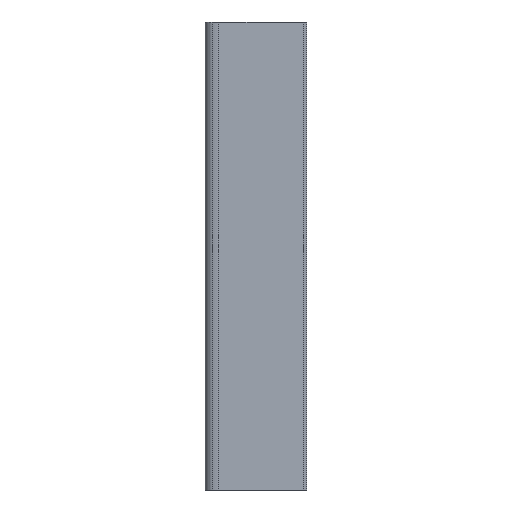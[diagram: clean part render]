
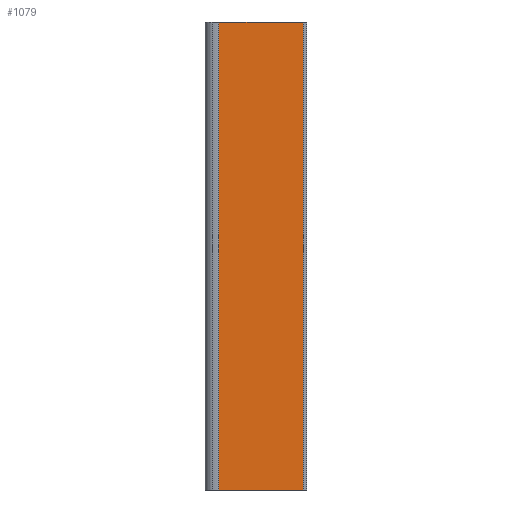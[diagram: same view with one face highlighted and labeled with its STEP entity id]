
A CAD part, left-side view. The second image highlights one B-rep face of the part: STEP entity #1079.
In plain terms, the highlighted planar face has unit normal (-1, 0, 0).
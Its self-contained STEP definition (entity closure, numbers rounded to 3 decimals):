
#29 = VERTEX_POINT ( 'NONE', #840 ) ;
#53 = EDGE_LOOP ( 'NONE', ( #215, #216, #218, #219 ) ) ;
#215 = ORIENTED_EDGE ( 'NONE', *, *, #1165, .T. ) ;
#216 = ORIENTED_EDGE ( 'NONE', *, *, #1154, .F. ) ;
#218 = ORIENTED_EDGE ( 'NONE', *, *, #1109, .F. ) ;
#219 = ORIENTED_EDGE ( 'NONE', *, *, #1255, .T. ) ;
#351 = LINE ( 'NONE', #1049, #353 ) ;
#353 = VECTOR ( 'NONE', #1055, 1000. ) ;
#390 = FACE_OUTER_BOUND ( 'NONE', #53, .T. ) ;
#504 = VECTOR ( 'NONE', #675, 1000. ) ;
#505 = LINE ( 'NONE', #674, #504 ) ;
#573 = LINE ( 'NONE', #935, #582 ) ;
#581 = VECTOR ( 'NONE', #928, 1000. ) ;
#582 = VECTOR ( 'NONE', #948, 1000. ) ;
#593 = LINE ( 'NONE', #925, #581 ) ;
#674 = CARTESIAN_POINT ( 'NONE',  ( -8.945, -3.6, 418. ) ) ;
#675 = DIRECTION ( 'NONE',  ( 0., 0., -1. ) ) ;
#772 = PLANE ( 'NONE',  #1238 ) ;
#775 = CARTESIAN_POINT ( 'NONE',  ( -8.945, -3.6, 418. ) ) ;
#781 = DIRECTION ( 'NONE',  ( 1., 0., 0. ) ) ;
#782 = DIRECTION ( 'NONE',  ( 0., 1., 0. ) ) ;
#796 = VERTEX_POINT ( 'NONE', #856 ) ;
#803 = VERTEX_POINT ( 'NONE', #860 ) ;
#814 = VERTEX_POINT ( 'NONE', #871 ) ;
#840 = CARTESIAN_POINT ( 'NONE',  ( -8.945, -78.967, 0. ) ) ;
#856 = CARTESIAN_POINT ( 'NONE',  ( -8.945, -78.967, 418. ) ) ;
#860 = CARTESIAN_POINT ( 'NONE',  ( -8.945, -3.6, 418. ) ) ;
#871 = CARTESIAN_POINT ( 'NONE',  ( -8.945, -3.6, 0. ) ) ;
#925 = CARTESIAN_POINT ( 'NONE',  ( -8.945, -78.967, 418. ) ) ;
#928 = DIRECTION ( 'NONE',  ( 0., 0., -1. ) ) ;
#935 = CARTESIAN_POINT ( 'NONE',  ( -8.945, -3.6, 0. ) ) ;
#948 = DIRECTION ( 'NONE',  ( 0., -1., 0. ) ) ;
#1049 = CARTESIAN_POINT ( 'NONE',  ( -8.945, -3.6, 418. ) ) ;
#1055 = DIRECTION ( 'NONE',  ( 0., -1., 0. ) ) ;
#1079 = ADVANCED_FACE ( 'NONE', ( #390 ), #772, .F. ) ;
#1109 = EDGE_CURVE ( 'NONE', #803, #796, #351, .T. ) ;
#1154 = EDGE_CURVE ( 'NONE', #796, #29, #593, .T. ) ;
#1165 = EDGE_CURVE ( 'NONE', #814, #29, #573, .T. ) ;
#1238 = AXIS2_PLACEMENT_3D ( 'NONE', #775, #781, #782 ) ;
#1255 = EDGE_CURVE ( 'NONE', #803, #814, #505, .T. ) ;
